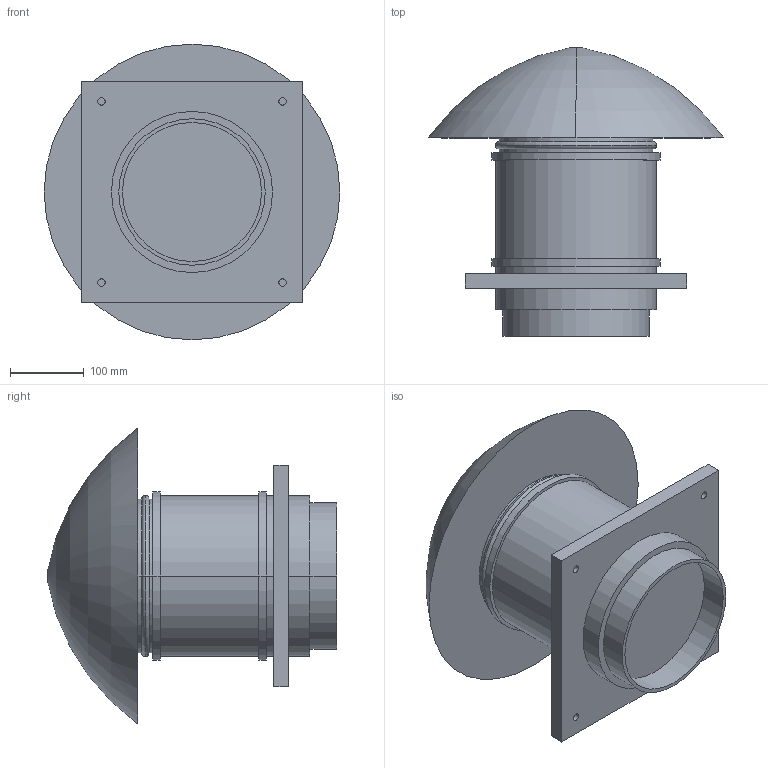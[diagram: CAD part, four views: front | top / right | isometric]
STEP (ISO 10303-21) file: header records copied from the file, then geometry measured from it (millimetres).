
FILE_DESCRIPTION(('STEP AP214'),'1');
FILE_NAME('5220025100.stp','2019-05-13T14:54:29',('TraceParts'),('TraceParts S.A.'),'Spatial InterOp 3D',' ',' ');
FILE_SCHEMA(('AUTOMOTIVE_DESIGN { 1 0 10303 214 1 1 1 1 }'));
Length unit declared in the file: millimetre
Products named in the file (1): 5220025100
Bounding box: 400 x 391 x 400 mm (x, y, z)
Volume: 17521070.7 mm3; surface area: 635299.6 mm2
Topology: 1 solids, 1 shells, 47 faces, 102 edges, 66 vertices
Faces by surface type: cylinder 26, plane 15, torus 6
Entity records: 1343 total; most frequent: DIRECTION 262, CARTESIAN_POINT 216, ORIENTED_EDGE 204, AXIS2_PLACEMENT_3D 112, EDGE_CURVE 102, VERTEX_POINT 66, EDGE_LOOP 64, CIRCLE 64
